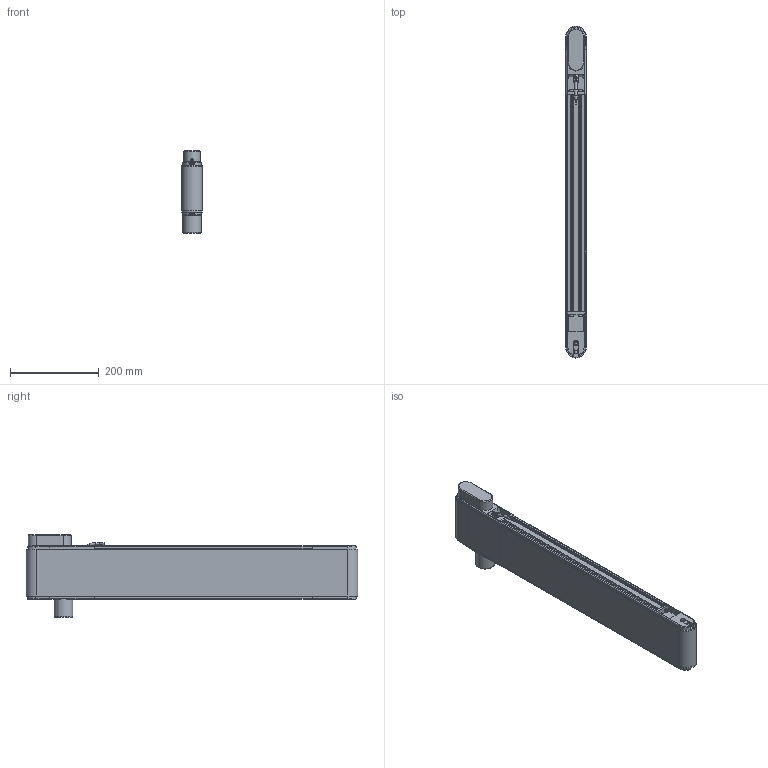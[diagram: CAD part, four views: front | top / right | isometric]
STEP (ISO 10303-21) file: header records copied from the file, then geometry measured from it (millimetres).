
FILE_DESCRIPTION(/* description */ (''),/* implementation_level */ '2;1');
FILE_NAME(/* name */ 'G:\DATEN\CAD\Förderband\Marketing\3D-Modelle (Standard)\FR-40-120-Q\FR-40-120-Q-700-K (Motorendrohr 40 mm).stp',/* time_stamp */ '2019-05-09T08:30:43+02:00',/* author */ ('melanie.ochs'),/* organization */ (''),/* preprocessor_version */ 'ST-DEVELOPER v17',/* originating_system */ 'Autodesk Inventor 2019',/* authorisation */ '');
FILE_SCHEMA (('CONFIG_CONTROL_DESIGN'));
Length unit declared in the file: centimetre
Products named in the file (1): FR-40-120-Q-700-K (Motorendrohr 40 mm)
Bounding box: 46.6 x 746.6 x 185 mm (x, y, z)
Volume: 1875573.3 mm3; surface area: 930353.8 mm2
Topology: 31 solids, 32 shells, 877 faces, 2377 edges, 1616 vertices
Faces by surface type: plane 441, cylinder 278, cone 67, bspline 61, torus 30
Full cylindrical faces by diameter (mm): 1 x6, 4 x6, 4.3 x4, 4.65 x1, 4.917 x1, 5 x11, 5.5 x8, 6 x2, 6.5 x1, 6.773 x1, 6.917 x2, 8 x7, 8.3 x12, 8.5 x8, 8.773 x1, 10 x1, 11 x1, 12 x3, 25 x2, 28 x4, 40.917 x1, 42 x1, 44 x2
Entity records: 29419 total; most frequent: CARTESIAN_POINT 6209, ORIENTED_EDGE 4718, DIRECTION 4580, EDGE_CURVE 2359, AXIS2_PLACEMENT_3D 1661, VERTEX_POINT 1616, LINE 1258, VECTOR 1258
